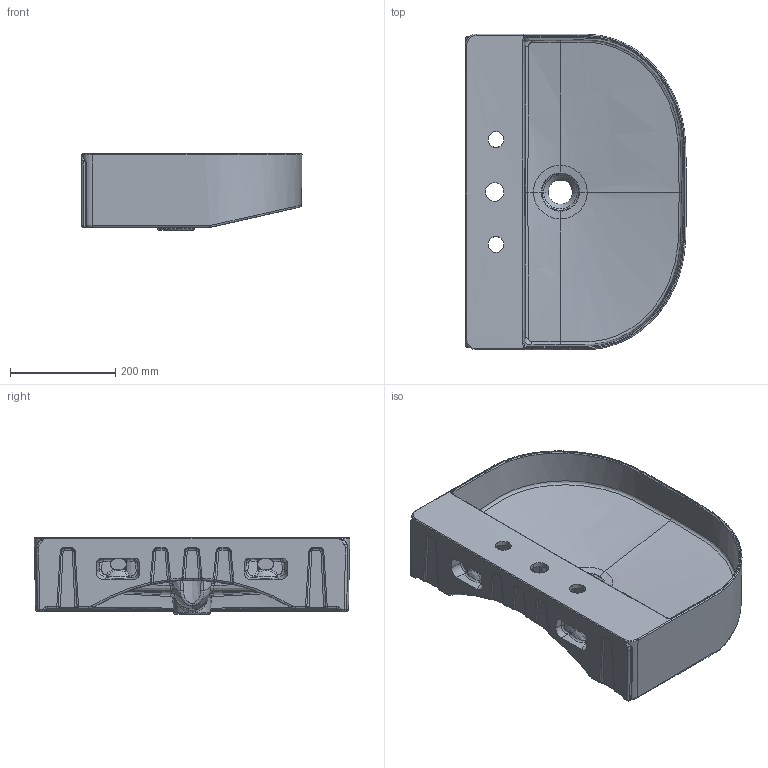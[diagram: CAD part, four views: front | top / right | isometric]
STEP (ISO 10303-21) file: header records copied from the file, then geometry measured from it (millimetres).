
FILE_DESCRIPTION(('STEP AP214'),'1');
FILE_NAME('HY10342......1_A.01.stp','2018-03-02T06:32:55',('3D-Tool'),(' '),'Spatial InterOp 3D',' ',' ');
FILE_SCHEMA(('AUTOMOTIVE_DESIGN { 1 0 10303 214 1 1 1 1 }'));
Length unit declared in the file: millimetre
Products named in the file (1): HY10342......1_A.01
Bounding box: 419.51 x 599.93 x 145 mm (x, y, z)
Volume: 8539827.7 mm3; surface area: 970940.1 mm2
Topology: 1 solids, 1 shells, 529 faces, 1293 edges, 734 vertices
Faces by surface type: bspline 337, cylinder 86, plane 45, sphere 22, cone 21, torus 18
Entity records: 101827 total; most frequent: CARTESIAN_POINT 88444, ORIENTED_EDGE 2518, EDGE_CURVE 1259, B_SPLINE_CURVE_WITH_KNOTS 1006, DIRECTION 768, VERTEX_POINT 730, EDGE_LOOP 539, STYLED_ITEM 530
